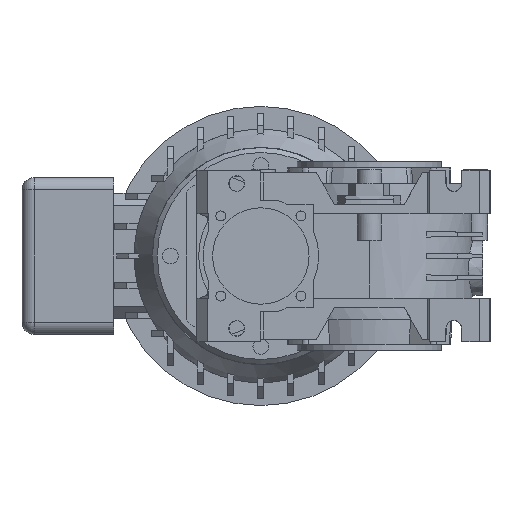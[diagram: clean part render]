
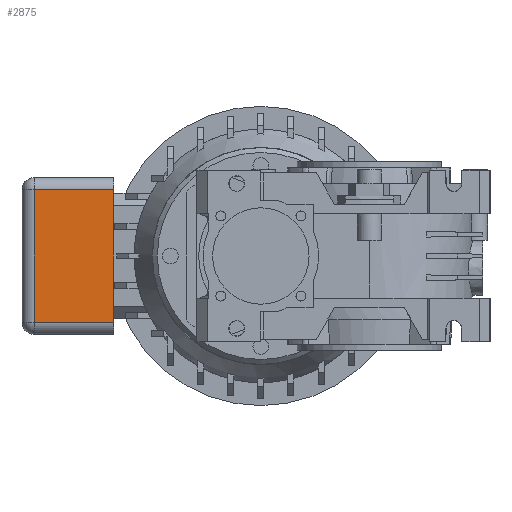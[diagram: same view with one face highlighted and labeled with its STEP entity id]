
A CAD part, left-side view. The second image highlights one B-rep face of the part: STEP entity #2875.
In plain terms, the highlighted planar face has unit normal (-1, 0, 0).
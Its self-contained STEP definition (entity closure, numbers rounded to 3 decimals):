
#2875 = ADVANCED_FACE( '', ( #6119 ), #6120, .T. );
#6119 = FACE_OUTER_BOUND( '', #10873, .T. );
#6120 = PLANE( '', #10874 );
#10873 = EDGE_LOOP( '', ( #19911, #19912, #19913, #19914 ) );
#10874 = AXIS2_PLACEMENT_3D( '', #19915, #19916, #19917 );
#19911 = ORIENTED_EDGE( '', *, *, #23655, .T. );
#19912 = ORIENTED_EDGE( '', *, *, #24054, .T. );
#19913 = ORIENTED_EDGE( '', *, *, #23674, .T. );
#19914 = ORIENTED_EDGE( '', *, *, #25868, .T. );
#19915 = CARTESIAN_POINT( '', ( 113.5, 106., -32.5 ) );
#19916 = DIRECTION( '', ( -1., 0., 0. ) );
#19917 = DIRECTION( '', ( 0., 0., -1. ) );
#23655 = EDGE_CURVE( '', #28666, #28668, #28670, .T. );
#23674 = EDGE_CURVE( '', #28703, #28701, #28704, .T. );
#24054 = EDGE_CURVE( '', #28668, #28703, #29316, .T. );
#25868 = EDGE_CURVE( '', #28701, #28666, #31792, .T. );
#28666 = VERTEX_POINT( '', #36310 );
#28668 = VERTEX_POINT( '', #36312 );
#28670 = LINE( '', #36314, #36315 );
#28701 = VERTEX_POINT( '', #36357 );
#28703 = VERTEX_POINT( '', #36359 );
#28704 = LINE( '', #36360, #36361 );
#29316 = LINE( '', #37412, #37413 );
#31792 = LINE( '', #41529, #41530 );
#36310 = CARTESIAN_POINT( '', ( 113.5, 139., 27.5 ) );
#36312 = CARTESIAN_POINT( '', ( 113.5, 139., -27.5 ) );
#36314 = CARTESIAN_POINT( '', ( 113.5, 139., -32.5 ) );
#36315 = VECTOR( '', #43711, 1000. );
#36357 = CARTESIAN_POINT( '', ( 113.5, 106., 27.5 ) );
#36359 = CARTESIAN_POINT( '', ( 113.5, 106., -27.5 ) );
#36360 = CARTESIAN_POINT( '', ( 113.5, 106., -32.5 ) );
#36361 = VECTOR( '', #43735, 1000. );
#37412 = CARTESIAN_POINT( '', ( 113.5, 106., -27.5 ) );
#37413 = VECTOR( '', #44116, 1000. );
#41529 = CARTESIAN_POINT( '', ( 113.5, 106., 27.5 ) );
#41530 = VECTOR( '', #45748, 1000. );
#43711 = DIRECTION( '', ( 0., 0., -1. ) );
#43735 = DIRECTION( '', ( 0., 0., 1. ) );
#44116 = DIRECTION( '', ( 0., -1., 0. ) );
#45748 = DIRECTION( '', ( 0., 1., 0. ) );
